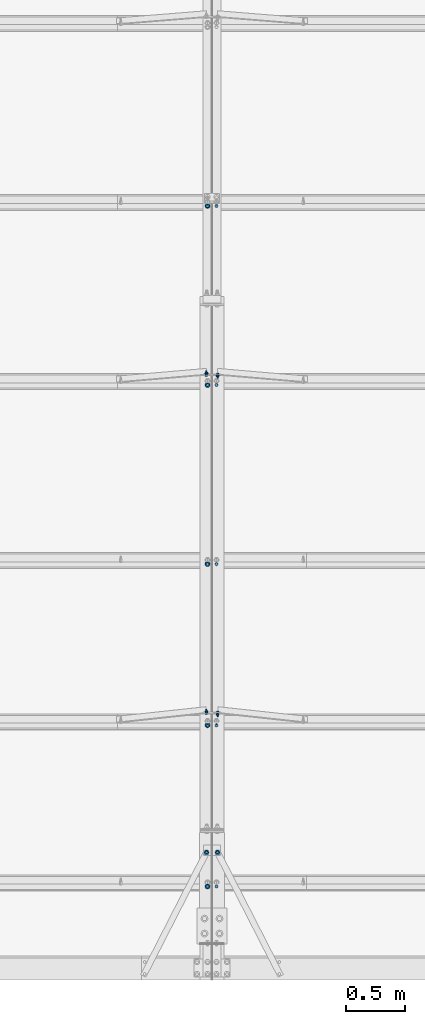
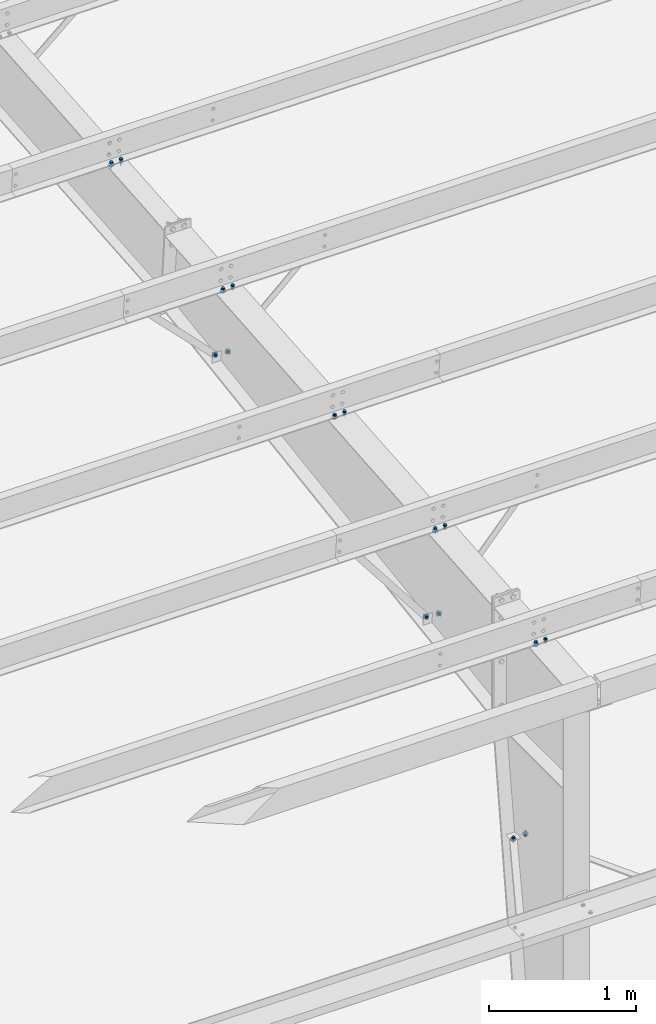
# One storey, part 134 of 185: 22 mechanical fasteners, 13 elements without a shape of their own.
"""IFC2X3 building model written with IfcOpenShell, lengths in millimetres."""

from ifc_helpers import new_model, si_unit, frame, origin_with_axes, origin_2d_with_axis, place, context, subcontext, project, spatial, polyline, circle, outline, extrude, source, transform, mapped, material, type_object, element, aggregate, save


model = new_model("IFC2X3")

# Units and contexts
model_context = context("Model", 3, precision=1e-05, world=origin_with_axes())
body_context = subcontext(model_context, "Body", "Model", "MODEL_VIEW")
ifc_project = project(units=[si_unit("LENGTHUNIT", "METRE", prefix="MILLI"), si_unit("AREAUNIT", "SQUARE_METRE"), si_unit("VOLUMEUNIT", "CUBIC_METRE"), si_unit("MASSUNIT", "GRAM", prefix="KILO"), si_unit("TIMEUNIT", "SECOND"), si_unit("PLANEANGLEUNIT", "RADIAN"), si_unit("SOLIDANGLEUNIT", "STERADIAN"), si_unit("THERMODYNAMICTEMPERATUREUNIT", "DEGREE_CELSIUS"), si_unit("LUMINOUSINTENSITYUNIT", "LUMEN")], contexts=[model_context])

# Site, building, storey
site_placement = place(None, origin_with_axes())
site = spatial("IfcSite", under=ifc_project, at=site_placement, Name="Undefined", CompositionType="ELEMENT")
building_placement = place(site_placement, origin_with_axes())
building = spatial("IfcBuilding", under=site, at=building_placement, Name="Undefined", CompositionType="ELEMENT")
storey_placement = place(building_placement, origin_with_axes())
storey = spatial("IfcBuildingStorey", under=building, at=storey_placement, Name="Undefined", CompositionType="ELEMENT", Elevation=0.0)

# Assembly, mechanical fastener
assembly_1_placement = place(storey_placement, origin_with_axes())
assembly_1 = element("IfcElementAssembly", 1, at=assembly_1_placement, inside=storey, Name="Steel Assembly", AssemblyPlace="NOTDEFINED", PredefinedType="RIGID_FRAME")
ifc_material_1 = material(Name="Undefined")
discrete_accessory_type = type_object("IfcDiscreteAccessoryType", Name="Bolt assembly")
shared_shape_1 = source(origin_with_axes(), body_context, "Body", "SweptSolid", [
    extrude(circle(Radius=7.14374971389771, at=origin_2d_with_axis()), frame((0.0, -1.59000001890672, 0.0), z_axis=(0.0, 1.0, 0.0), x_axis=(1.0, 0.0, 0.0)), (0.0, 0.0, 1.0), 1.7),
    extrude(outline(polyline([(10.9985221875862, 0.0), (5.4992610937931, 9.52499961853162), (-5.4992610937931, 9.52499961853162), (-10.9985221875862, 0.0), (-5.4992610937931, -9.52499961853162), (5.4992610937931, -9.52499961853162), (10.9985221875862, 0.0)])), frame((0.0, -15.0837496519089, 0.0), z_axis=(0.0, 1.0, 0.0), x_axis=(1.0, 0.0, 0.0)), (0.0, 0.0, 1.0), 9.5),
    extrude(circle(Radius=6.34999990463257, at=origin_2d_with_axis()), frame((0.0, -5.5587500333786, 0.0), z_axis=(0.0, 1.0, 0.0), x_axis=(1.0, 0.0, 0.0)), (0.0, 0.0, 1.0), 38.1),
    extrude(circle(Radius=13.4937496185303, at=origin_2d_with_axis()), frame((0.0, -5.5587500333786, 0.0), z_axis=(0.0, 1.0, 0.0), x_axis=(1.0, 0.0, 0.0)), (0.0, 0.0, 1.0), 4.0),
    extrude(circle(Radius=22.2250003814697, at=origin_2d_with_axis()), frame((0.0, 0.0, 0.0), z_axis=(0.0, 1.0, 0.0), x_axis=(1.0, 0.0, 0.0)), (0.0, 0.0, 1.0), 7.9),
    extrude(outline(polyline([(12.8316099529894, 0.0), (6.4158049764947, 11.1125001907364), (-6.4158049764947, 11.1125001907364), (-12.8316099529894, 0.0), (-6.4158049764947, -11.1125001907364), (6.4158049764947, -11.1125001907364), (12.8316099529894, 0.0)])), frame((0.0, 7.93750000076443, 0.0), z_axis=(0.0, 1.0, 0.0), x_axis=(1.0, 0.0, 0.0)), (0.0, 0.0, 1.0), 12.3),
])
mechanical_fastener_1_placement = place(assembly_1_placement, frame((22526.2866216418, 1081.76889073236, 4165.1649751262), z_axis=(-0.890301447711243, -0.455371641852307, 0.0), x_axis=(0.455371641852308, -0.890301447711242, 0.0)))
mechanical_fastener_1 = element("IfcMechanicalFastener", 2, at=mechanical_fastener_1_placement, type_object=discrete_accessory_type, material=ifc_material_1, Name="Bolt assembly", NominalDiameter=12.6999998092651, NominalLength=38.0999984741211, context=body_context, shape_type="MappedRepresentation", body=[
    mapped(shared_shape_1, transform((0.0, 0.0, 0.0))),
])
aggregate(assembly_1, [mechanical_fastener_1])

assembly_2_placement = place(storey_placement, origin_with_axes())
assembly_2 = element("IfcElementAssembly", 3, at=assembly_2_placement, inside=storey, Name="Steel Assembly", AssemblyPlace="NOTDEFINED", PredefinedType="RIGID_FRAME")
mechanical_fastener_2_placement = place(assembly_2_placement, frame((22526.5257244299, 5133.84450725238, 5717.36204916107), z_axis=(0.719276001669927, 0.0576937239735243, -0.692324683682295), x_axis=(0.69472443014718, -0.0597326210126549, 0.716791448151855)))
mechanical_fastener_2 = element("IfcMechanicalFastener", 4, at=mechanical_fastener_2_placement, type_object=discrete_accessory_type, material=ifc_material_1, Name="Bolt assembly", NominalDiameter=12.6999998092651, NominalLength=38.0999984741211, context=body_context, shape_type="MappedRepresentation", body=[
    mapped(shared_shape_1, transform((0.0, 0.0, 0.0))),
])
aggregate(assembly_2, [mechanical_fastener_2])

assembly_3_placement = place(storey_placement, origin_with_axes())
assembly_3 = element("IfcElementAssembly", 5, at=assembly_3_placement, inside=storey, Name="Steel Assembly", AssemblyPlace="NOTDEFINED", PredefinedType="RIGID_FRAME")
mechanical_fastener_3_placement = place(assembly_3_placement, frame((22526.4401058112, 2264.36236561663, 5283.50648644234), z_axis=(0.793088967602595, 0.0505834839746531, -0.60700181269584), x_axis=(0.609105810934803, -0.0658624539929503, 0.790349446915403)))
mechanical_fastener_3 = element("IfcMechanicalFastener", 6, at=mechanical_fastener_3_placement, type_object=discrete_accessory_type, material=ifc_material_1, Name="Bolt assembly", NominalDiameter=12.6999998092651, NominalLength=38.0999984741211, context=body_context, shape_type="MappedRepresentation", body=[
    mapped(shared_shape_1, transform((0.0, 0.0, 0.0))),
])
aggregate(assembly_3, [mechanical_fastener_3])

assembly_4_placement = place(storey_placement, origin_with_axes())
assembly_4 = element("IfcElementAssembly", 7, at=assembly_4_placement, inside=storey, Name="Steel Assembly", AssemblyPlace="NOTDEFINED", PredefinedType="RIGID_FRAME")
shared_shape_2 = source(origin_with_axes(), body_context, "Body", "SweptSolid", [
    extrude(circle(Radius=7.14374971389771, at=origin_2d_with_axis()), frame((0.0, 0.0, 0.0), z_axis=(0.0, 1.0, 0.0), x_axis=(1.0, 0.0, 0.0)), (0.0, 0.0, 1.0), 1.7),
    extrude(outline(polyline([(10.9985221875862, 0.0), (5.4992610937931, 9.52499961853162), (-5.4992610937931, 9.52499961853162), (-10.9985221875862, 0.0), (-5.4992610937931, -9.52499961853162), (5.4992610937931, -9.52499961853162), (10.9985221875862, 0.0)])), frame((0.0, -13.4937496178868, 0.0), z_axis=(0.0, 1.0, 0.0), x_axis=(1.0, 0.0, 0.0)), (0.0, 0.0, 1.0), 9.5),
    extrude(circle(Radius=6.34999990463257, at=origin_2d_with_axis()), frame((0.0, -3.96874999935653, 0.0), z_axis=(0.0, 1.0, 0.0), x_axis=(1.0, 0.0, 0.0)), (0.0, 0.0, 1.0), 38.1),
    extrude(circle(Radius=13.4937496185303, at=origin_2d_with_axis()), frame((0.0, -3.96874999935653, 0.0), z_axis=(0.0, 1.0, 0.0), x_axis=(1.0, 0.0, 0.0)), (0.0, 0.0, 1.0), 4.0),
    extrude(circle(Radius=22.2250003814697, at=origin_2d_with_axis()), frame((0.0, 1.5900000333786, 0.0), z_axis=(0.0, 1.0, 0.0), x_axis=(1.0, 0.0, 0.0)), (0.0, 0.0, 1.0), 7.9),
    extrude(outline(polyline([(12.8316099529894, 0.0), (6.4158049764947, 11.1125001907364), (-6.4158049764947, 11.1125001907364), (-12.8316099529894, 0.0), (-6.4158049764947, -11.1125001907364), (6.4158049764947, -11.1125001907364), (12.8316099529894, 0.0)])), frame((0.0, 9.5275000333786, 0.0), z_axis=(0.0, 1.0, 0.0), x_axis=(1.0, 0.0, 0.0)), (0.0, 0.0, 1.0), 12.3),
])
mechanical_fastener_4_placement = place(assembly_4_placement, frame((22431.7133783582, 1081.76889073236, 4165.1649751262), z_axis=(0.890301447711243, -0.455371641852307, 0.0), x_axis=(-0.455371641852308, -0.890301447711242, 0.0)))
mechanical_fastener_4 = element("IfcMechanicalFastener", 8, at=mechanical_fastener_4_placement, type_object=discrete_accessory_type, material=ifc_material_1, Name="Bolt assembly", NominalDiameter=12.6999998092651, NominalLength=38.0999984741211, context=body_context, shape_type="MappedRepresentation", body=[
    mapped(shared_shape_2, transform((0.0, 0.0, 0.0))),
])
aggregate(assembly_4, [mechanical_fastener_4])

assembly_5_placement = place(storey_placement, origin_with_axes())
assembly_5 = element("IfcElementAssembly", 9, at=assembly_5_placement, inside=storey, Name="Steel Assembly", AssemblyPlace="NOTDEFINED", PredefinedType="RIGID_FRAME")
mechanical_fastener_5_placement = place(assembly_5_placement, frame((22431.4742755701, 5133.84450725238, 5717.36204916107), z_axis=(-0.719276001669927, 0.0576937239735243, -0.692324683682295), x_axis=(-0.69472443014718, -0.0597326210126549, 0.716791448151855)))
mechanical_fastener_5 = element("IfcMechanicalFastener", 10, at=mechanical_fastener_5_placement, type_object=discrete_accessory_type, material=ifc_material_1, Name="Bolt assembly", NominalDiameter=12.6999998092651, NominalLength=38.0999984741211, context=body_context, shape_type="MappedRepresentation", body=[
    mapped(shared_shape_2, transform((0.0, 0.0, 0.0))),
])
aggregate(assembly_5, [mechanical_fastener_5])

assembly_6_placement = place(storey_placement, origin_with_axes())
assembly_6 = element("IfcElementAssembly", 11, at=assembly_6_placement, inside=storey, Name="Steel Assembly", AssemblyPlace="NOTDEFINED", PredefinedType="RIGID_FRAME")
mechanical_fastener_6_placement = place(assembly_6_placement, frame((22431.5598941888, 2264.36236561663, 5283.50648644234), z_axis=(-0.793088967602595, 0.0505834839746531, -0.60700181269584), x_axis=(-0.609105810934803, -0.0658624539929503, 0.790349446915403)))
mechanical_fastener_6 = element("IfcMechanicalFastener", 12, at=mechanical_fastener_6_placement, type_object=discrete_accessory_type, material=ifc_material_1, Name="Bolt assembly", NominalDiameter=12.6999998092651, NominalLength=38.0999984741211, context=body_context, shape_type="MappedRepresentation", body=[
    mapped(shared_shape_2, transform((0.0, 0.0, 0.0))),
])
aggregate(assembly_6, [mechanical_fastener_6])

assembly_7_placement = place(storey_placement, origin_with_axes())
assembly_7 = element("IfcElementAssembly", 13, at=assembly_7_placement, inside=storey, Name="Steel Assembly", AssemblyPlace="NOTDEFINED", PredefinedType="RIGID_FRAME")
ifc_material_2 = material(Name="7990")
shared_shape_3 = source(origin_with_axes(), body_context, "Body", "SweptSolid", [
    extrude(circle(Radius=7.14374971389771, at=origin_2d_with_axis()), frame((0.0, -3.41600000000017, 0.0), z_axis=(0.0, 1.0, 0.0), x_axis=(1.0, 0.0, 0.0)), (0.0, 0.0, 1.0), 3.5),
    extrude(circle(Radius=11.4299998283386, at=origin_2d_with_axis()), frame((0.0, 0.0, 0.0), z_axis=(0.0, 1.0, 0.0), x_axis=(1.0, 0.0, 0.0)), (0.0, 0.0, 1.0), 4.2),
    extrude(outline(polyline([(12.171698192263, 0.0), (6.08584909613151, 10.5409998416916), (-6.08584909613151, 10.5409998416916), (-12.171698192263, 0.0), (-6.08584909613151, -10.5409998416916), (6.08584909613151, -10.5409998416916), (12.171698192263, 0.0)])), frame((0.0, 4.1909999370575, 0.0), z_axis=(0.0, 1.0, 0.0), x_axis=(1.0, 0.0, 0.0)), (0.0, 0.0, 1.0), 8.4),
])
mechanical_fastener_7_placement = place(assembly_7_placement, frame((22432.16875, 1082.65919218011, 4165.1649751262), z_axis=(0.921635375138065, 0.388057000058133, 0.0), x_axis=(-0.388057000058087, 0.921635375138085, 0.0)))
mechanical_fastener_7 = element("IfcMechanicalFastener", 14, at=mechanical_fastener_7_placement, type_object=discrete_accessory_type, material=ifc_material_2, Name="Bolt assembly", NominalDiameter=12.6999998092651, NominalLength=38.0999984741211, context=body_context, shape_type="MappedRepresentation", body=[
    mapped(shared_shape_3, transform((0.0, 0.0, 0.0))),
])

# Assembly, mechanical fasteners
assembly_8_placement = place(storey_placement, origin_with_axes())
assembly_8 = element("IfcElementAssembly", 15, at=assembly_8_placement, inside=storey, Name="Steel Assembly", AssemblyPlace="NOTDEFINED", PredefinedType="RIGID_FRAME")
mechanical_fastener_8_placement = place(assembly_8_placement, frame((22432.169, 5133.90423987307, 5716.64525771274), z_axis=(0.921635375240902, 0.0322263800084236, -0.386716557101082), x_axis=(-0.388056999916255, 0.0765376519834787, -0.9184518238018)))
mechanical_fastener_8 = element("IfcMechanicalFastener", 16, at=mechanical_fastener_8_placement, type_object=discrete_accessory_type, material=ifc_material_2, Name="Bolt assembly", NominalDiameter=12.6999998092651, NominalLength=38.0999984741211, context=body_context, shape_type="MappedRepresentation", body=[
    mapped(shared_shape_3, transform((0.0, 0.0, 0.0))),
])
mechanical_fastener_9_placement = place(assembly_8_placement, frame((22432.169, 2264.42822807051, 5282.71613699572), z_axis=(0.921635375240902, 0.0322263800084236, -0.386716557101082), x_axis=(-0.388056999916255, 0.0765376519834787, -0.9184518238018)))
mechanical_fastener_9 = element("IfcMechanicalFastener", 17, at=mechanical_fastener_9_placement, type_object=discrete_accessory_type, material=ifc_material_2, Name="Bolt assembly", NominalDiameter=12.6999998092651, NominalLength=38.0999984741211, context=body_context, shape_type="MappedRepresentation", body=[
    mapped(shared_shape_3, transform((0.0, 0.0, 0.0))),
])

# Mechanical fastener
shared_shape_4 = source(origin_with_axes(), body_context, "Body", "SweptSolid", [
    extrude(circle(Radius=7.14374971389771, at=origin_2d_with_axis()), frame((0.0, 0.0, 0.0), z_axis=(0.0, 1.0, 0.0), x_axis=(1.0, 0.0, 0.0)), (0.0, 0.0, 1.0), 3.5),
    extrude(circle(Radius=11.4299998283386, at=origin_2d_with_axis()), frame((0.0, 3.41600000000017, 0.0), z_axis=(0.0, 1.0, 0.0), x_axis=(1.0, 0.0, 0.0)), (0.0, 0.0, 1.0), 4.2),
    extrude(outline(polyline([(12.171698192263, 0.0), (6.08584909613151, 10.5409998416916), (-6.08584909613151, 10.5409998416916), (-12.171698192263, 0.0), (-6.08584909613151, -10.5409998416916), (6.08584909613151, -10.5409998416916), (12.171698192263, 0.0)])), frame((0.0, 7.60699993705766, 0.0), z_axis=(0.0, 1.0, 0.0), x_axis=(1.0, 0.0, 0.0)), (0.0, 0.0, 1.0), 8.4),
])
mechanical_fastener_10_placement = place(assembly_7_placement, frame((22525.83125, 1082.65919218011, 4165.1649751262), z_axis=(-0.921635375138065, 0.388057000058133, 0.0), x_axis=(0.388057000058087, 0.921635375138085, 0.0)))
mechanical_fastener_10 = element("IfcMechanicalFastener", 18, at=mechanical_fastener_10_placement, type_object=discrete_accessory_type, material=ifc_material_2, Name="Bolt assembly", NominalDiameter=12.6999998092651, NominalLength=38.0999984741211, context=body_context, shape_type="MappedRepresentation", body=[
    mapped(shared_shape_4, transform((0.0, 0.0, 0.0))),
])

aggregate(assembly_7, [mechanical_fastener_7, mechanical_fastener_10])

mechanical_fastener_11_placement = place(assembly_8_placement, frame((22525.831, 5133.90423987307, 5716.64525771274), z_axis=(-0.921635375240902, 0.0322263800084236, -0.386716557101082), x_axis=(0.388056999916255, 0.0765376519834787, -0.9184518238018)))
mechanical_fastener_11 = element("IfcMechanicalFastener", 19, at=mechanical_fastener_11_placement, type_object=discrete_accessory_type, material=ifc_material_2, Name="Bolt assembly", NominalDiameter=12.6999998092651, NominalLength=38.0999984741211, context=body_context, shape_type="MappedRepresentation", body=[
    mapped(shared_shape_4, transform((0.0, 0.0, 0.0))),
])

mechanical_fastener_12_placement = place(assembly_8_placement, frame((22525.831, 2264.42822807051, 5282.71613699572), z_axis=(-0.921635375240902, 0.0322263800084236, -0.386716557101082), x_axis=(0.388056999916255, 0.0765376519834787, -0.9184518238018)))
mechanical_fastener_12 = element("IfcMechanicalFastener", 20, at=mechanical_fastener_12_placement, type_object=discrete_accessory_type, material=ifc_material_2, Name="Bolt assembly", NominalDiameter=12.6999998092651, NominalLength=38.0999984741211, context=body_context, shape_type="MappedRepresentation", body=[
    mapped(shared_shape_4, transform((0.0, 0.0, 0.0))),
])

aggregate(assembly_8, [mechanical_fastener_11, mechanical_fastener_8, mechanical_fastener_12, mechanical_fastener_9])

# Assembly, mechanical fasteners
assembly_9_placement = place(storey_placement, origin_with_axes())
assembly_9 = element("IfcElementAssembly", 21, at=assembly_9_placement, inside=storey, Name="Steel Assembly", AssemblyPlace="NOTDEFINED", PredefinedType="RIGID_FRAME")
shared_shape_5 = source(origin_with_axes(), body_context, "Body", "SweptSolid", [
    extrude(circle(Radius=7.14374971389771, at=origin_2d_with_axis()), frame((0.0, -0.0238014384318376, 0.0), z_axis=(0.0, 1.0, 0.0), x_axis=(1.0, 0.0, 0.0)), (0.0, 0.0, 1.0), 8.0),
    extrude(circle(Radius=7.14374971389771, at=origin_2d_with_axis()), frame((0.0, -3.08000006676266, 0.0), z_axis=(0.0, 1.0, 0.0), x_axis=(1.0, 0.0, 0.0)), (0.0, 0.0, 1.0), 3.2),
    extrude(circle(Radius=7.14374971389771, at=origin_2d_with_axis()), frame((0.0, -3.08000006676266, 0.0), z_axis=(0.0, 1.0, 0.0), x_axis=(1.0, 0.0, 0.0)), (0.0, 0.0, 1.0), 3.2),
    extrude(outline(polyline([(12.8316099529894, 0.0), (6.4158049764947, 11.1125001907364), (-6.4158049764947, 11.1125001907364), (-12.8316099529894, 0.0), (-6.4158049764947, -11.1125001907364), (6.4158049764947, -11.1125001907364), (12.8316099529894, 0.0)])), frame((0.0, -15.08625183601, 0.0), z_axis=(0.0, 1.0, 0.0), x_axis=(1.0, 0.0, 0.0)), (0.0, 0.0, 1.0), 7.9),
    extrude(circle(Radius=6.34999990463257, at=origin_2d_with_axis()), frame((0.0, -7.14875006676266, 0.0), z_axis=(0.0, 1.0, 0.0), x_axis=(1.0, 0.0, 0.0)), (0.0, 0.0, 1.0), 50.8),
    extrude(circle(Radius=13.4937496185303, at=origin_2d_with_axis()), frame((0.0, -7.14875006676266, 0.0), z_axis=(0.0, 1.0, 0.0), x_axis=(1.0, 0.0, 0.0)), (0.0, 0.0, 1.0), 4.0),
    extrude(circle(Radius=22.2250003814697, at=origin_2d_with_axis()), frame((0.0, 7.95019856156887, 0.0), z_axis=(0.0, 1.0, 0.0), x_axis=(1.0, 0.0, 0.0)), (0.0, 0.0, 1.0), 7.9),
    extrude(outline(polyline([(12.8316099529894, 0.0), (6.4158049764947, 11.1125001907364), (-6.4158049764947, 11.1125001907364), (-12.8316099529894, 0.0), (-6.4158049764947, -11.1125001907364), (6.4158049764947, -11.1125001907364), (12.8316099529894, 0.0)])), frame((0.0, 15.8876985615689, 0.0), z_axis=(0.0, 1.0, 0.0), x_axis=(1.0, 0.0, 0.0)), (0.0, 0.0, 1.0), 12.3),
])
mechanical_fastener_13_placement = place(assembly_9_placement, frame((22440.9, 6564.74531362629, 6439.15777570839), z_axis=(1.0, 0.0, 0.0), x_axis=(0.0, -0.996545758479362, -0.0830454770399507)))
mechanical_fastener_13 = element("IfcMechanicalFastener", 22, at=mechanical_fastener_13_placement, type_object=discrete_accessory_type, material=ifc_material_1, Name="Bolt assembly", NominalDiameter=12.6999998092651, NominalLength=50.7999992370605, context=body_context, shape_type="MappedRepresentation", body=[
    mapped(shared_shape_5, transform((0.0, 0.0, 0.0))),
])
shared_shape_6 = source(origin_with_axes(), body_context, "Body", "SweptSolid", [
    extrude(circle(Radius=7.14374971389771, at=origin_2d_with_axis()), frame((0.0, -0.0238014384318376, 0.0), z_axis=(0.0, 1.0, 0.0), x_axis=(1.0, 0.0, 0.0)), (0.0, 0.0, 1.0), 8.0),
    extrude(circle(Radius=7.14374971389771, at=origin_2d_with_axis()), frame((0.0, -3.08000006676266, 0.0), z_axis=(0.0, 1.0, 0.0), x_axis=(1.0, 0.0, 0.0)), (0.0, 0.0, 1.0), 3.2),
    extrude(circle(Radius=7.14374971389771, at=origin_2d_with_axis()), frame((0.0, -3.08000006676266, 0.0), z_axis=(0.0, 1.0, 0.0), x_axis=(1.0, 0.0, 0.0)), (0.0, 0.0, 1.0), 3.2),
    extrude(outline(polyline([(12.8316099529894, 0.0), (6.4158049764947, 11.1125001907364), (-6.4158049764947, 11.1125001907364), (-12.8316099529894, 0.0), (-6.4158049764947, -11.1125001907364), (6.4158049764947, -11.1125001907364), (12.8316099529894, 0.0)])), frame((0.0, -15.08625183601, 0.0), z_axis=(0.0, 1.0, 0.0), x_axis=(1.0, 0.0, 0.0)), (0.0, 0.0, 1.0), 7.9),
    extrude(circle(Radius=6.34999990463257, at=origin_2d_with_axis()), frame((0.0, -7.14875006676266, 0.0), z_axis=(0.0, 1.0, 0.0), x_axis=(1.0, 0.0, 0.0)), (0.0, 0.0, 1.0), 50.8),
    extrude(circle(Radius=13.4937496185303, at=origin_2d_with_axis()), frame((0.0, -7.14875006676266, 0.0), z_axis=(0.0, 1.0, 0.0), x_axis=(1.0, 0.0, 0.0)), (0.0, 0.0, 1.0), 4.0),
    extrude(outline(polyline([(12.8316099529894, 0.0), (6.4158049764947, 11.1125001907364), (-6.4158049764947, 11.1125001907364), (-12.8316099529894, 0.0), (-6.4158049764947, -11.1125001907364), (6.4158049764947, -11.1125001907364), (12.8316099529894, 0.0)])), frame((0.0, 7.95019856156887, 0.0), z_axis=(0.0, 1.0, 0.0), x_axis=(1.0, 0.0, 0.0)), (0.0, 0.0, 1.0), 12.3),
])
mechanical_fastener_14_placement = place(assembly_9_placement, frame((22517.1, 6564.74531362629, 6439.15777570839), z_axis=(1.0, 0.0, 0.0), x_axis=(0.0, -0.996545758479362, -0.0830454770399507)))
mechanical_fastener_14 = element("IfcMechanicalFastener", 23, at=mechanical_fastener_14_placement, type_object=discrete_accessory_type, material=ifc_material_1, Name="Bolt assembly", NominalDiameter=12.6999998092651, NominalLength=50.7999992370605, context=body_context, shape_type="MappedRepresentation", body=[
    mapped(shared_shape_6, transform((0.0, 0.0, 0.0))),
])
aggregate(assembly_9, [mechanical_fastener_13, mechanical_fastener_14])

assembly_10_placement = place(storey_placement, origin_with_axes())
assembly_10 = element("IfcElementAssembly", 24, at=assembly_10_placement, inside=storey, Name="Steel Assembly", AssemblyPlace="NOTDEFINED", PredefinedType="RIGID_FRAME")
shared_shape_7 = source(origin_with_axes(), body_context, "Body", "SweptSolid", [
    extrude(circle(Radius=7.14374971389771, at=origin_2d_with_axis()), frame((0.0, -0.1, 0.0), z_axis=(0.0, 1.0, 0.0), x_axis=(1.0, 0.0, 0.0)), (0.0, 0.0, 1.0), 8.1),
    extrude(circle(Radius=7.14374971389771, at=origin_2d_with_axis()), frame((0.0, -3.08000006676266, 0.0), z_axis=(0.0, 1.0, 0.0), x_axis=(1.0, 0.0, 0.0)), (0.0, 0.0, 1.0), 3.2),
    extrude(circle(Radius=7.14374971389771, at=origin_2d_with_axis()), frame((0.0, -3.08000006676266, 0.0), z_axis=(0.0, 1.0, 0.0), x_axis=(1.0, 0.0, 0.0)), (0.0, 0.0, 1.0), 3.2),
    extrude(outline(polyline([(10.9985221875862, 0.0), (5.4992610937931, 9.52499961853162), (-5.4992610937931, 9.52499961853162), (-10.9985221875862, 0.0), (-5.4992610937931, -9.52499961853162), (5.4992610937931, -9.52499961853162), (10.9985221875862, 0.0)])), frame((0.0, -16.6737496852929, 0.0), z_axis=(0.0, 1.0, 0.0), x_axis=(1.0, 0.0, 0.0)), (0.0, 0.0, 1.0), 9.5),
    extrude(circle(Radius=6.34999990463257, at=origin_2d_with_axis()), frame((0.0, -7.14875006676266, 0.0), z_axis=(0.0, 1.0, 0.0), x_axis=(1.0, 0.0, 0.0)), (0.0, 0.0, 1.0), 38.1),
    extrude(circle(Radius=13.4937496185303, at=origin_2d_with_axis()), frame((0.0, -7.14875006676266, 0.0), z_axis=(0.0, 1.0, 0.0), x_axis=(1.0, 0.0, 0.0)), (0.0, 0.0, 1.0), 4.0),
    extrude(circle(Radius=22.2250003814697, at=origin_2d_with_axis()), frame((0.0, 7.95019856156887, 0.0), z_axis=(0.0, 1.0, 0.0), x_axis=(1.0, 0.0, 0.0)), (0.0, 0.0, 1.0), 7.9),
    extrude(outline(polyline([(12.8316099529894, 0.0), (6.4158049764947, 11.1125001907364), (-6.4158049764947, 11.1125001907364), (-12.8316099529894, 0.0), (-6.4158049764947, -11.1125001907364), (6.4158049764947, -11.1125001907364), (12.8316099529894, 0.0)])), frame((0.0, 15.8876985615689, 0.0), z_axis=(0.0, 1.0, 0.0), x_axis=(1.0, 0.0, 0.0)), (0.0, 0.0, 1.0), 12.3),
])
mechanical_fastener_15_placement = place(assembly_10_placement, frame((22440.9, 793.549517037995, 5958.22479168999), z_axis=(1.0, 0.0, 0.0), x_axis=(0.0, -0.996545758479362, -0.0830454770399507)))
mechanical_fastener_15 = element("IfcMechanicalFastener", 25, at=mechanical_fastener_15_placement, type_object=discrete_accessory_type, material=ifc_material_1, Name="Bolt assembly", NominalDiameter=12.6999998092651, NominalLength=38.0999984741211, context=body_context, shape_type="MappedRepresentation", body=[
    mapped(shared_shape_7, transform((0.0, 0.0, 0.0))),
])
shared_shape_8 = source(origin_with_axes(), body_context, "Body", "SweptSolid", [
    extrude(circle(Radius=7.14374971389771, at=origin_2d_with_axis()), frame((0.0, -0.1, 0.0), z_axis=(0.0, 1.0, 0.0), x_axis=(1.0, 0.0, 0.0)), (0.0, 0.0, 1.0), 8.1),
    extrude(circle(Radius=7.14374971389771, at=origin_2d_with_axis()), frame((0.0, -3.08000006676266, 0.0), z_axis=(0.0, 1.0, 0.0), x_axis=(1.0, 0.0, 0.0)), (0.0, 0.0, 1.0), 3.2),
    extrude(circle(Radius=7.14374971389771, at=origin_2d_with_axis()), frame((0.0, -3.08000006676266, 0.0), z_axis=(0.0, 1.0, 0.0), x_axis=(1.0, 0.0, 0.0)), (0.0, 0.0, 1.0), 3.2),
    extrude(outline(polyline([(10.9985221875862, 0.0), (5.4992610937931, 9.52499961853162), (-5.4992610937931, 9.52499961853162), (-10.9985221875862, 0.0), (-5.4992610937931, -9.52499961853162), (5.4992610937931, -9.52499961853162), (10.9985221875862, 0.0)])), frame((0.0, -16.6737496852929, 0.0), z_axis=(0.0, 1.0, 0.0), x_axis=(1.0, 0.0, 0.0)), (0.0, 0.0, 1.0), 9.5),
    extrude(circle(Radius=6.34999990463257, at=origin_2d_with_axis()), frame((0.0, -7.14875006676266, 0.0), z_axis=(0.0, 1.0, 0.0), x_axis=(1.0, 0.0, 0.0)), (0.0, 0.0, 1.0), 38.1),
    extrude(circle(Radius=13.4937496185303, at=origin_2d_with_axis()), frame((0.0, -7.14875006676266, 0.0), z_axis=(0.0, 1.0, 0.0), x_axis=(1.0, 0.0, 0.0)), (0.0, 0.0, 1.0), 4.0),
    extrude(outline(polyline([(12.8316099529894, 0.0), (6.4158049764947, 11.1125001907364), (-6.4158049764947, 11.1125001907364), (-12.8316099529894, 0.0), (-6.4158049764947, -11.1125001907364), (6.4158049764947, -11.1125001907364), (12.8316099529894, 0.0)])), frame((0.0, 7.95019856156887, 0.0), z_axis=(0.0, 1.0, 0.0), x_axis=(1.0, 0.0, 0.0)), (0.0, 0.0, 1.0), 12.3),
])
mechanical_fastener_16_placement = place(assembly_10_placement, frame((22517.1, 793.549517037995, 5958.22479168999), z_axis=(1.0, 0.0, 0.0), x_axis=(0.0, -0.996545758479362, -0.0830454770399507)))
mechanical_fastener_16 = element("IfcMechanicalFastener", 26, at=mechanical_fastener_16_placement, type_object=discrete_accessory_type, material=ifc_material_1, Name="Bolt assembly", NominalDiameter=12.6999998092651, NominalLength=38.0999984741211, context=body_context, shape_type="MappedRepresentation", body=[
    mapped(shared_shape_8, transform((0.0, 0.0, 0.0))),
])
aggregate(assembly_10, [mechanical_fastener_15, mechanical_fastener_16])

# Assembly, mechanical fastener
assembly_11_placement = place(storey_placement, origin_with_axes())
assembly_11 = element("IfcElementAssembly", 27, at=assembly_11_placement, inside=storey, Name="Steel Assembly", AssemblyPlace="NOTDEFINED", PredefinedType="RIGID_FRAME")
shared_shape_9 = source(origin_with_axes(), body_context, "Body", "SweptSolid", [
    extrude(circle(Radius=7.14374971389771, at=origin_2d_with_axis()), frame((0.0, -0.0897199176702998, 0.0), z_axis=(0.0, 1.0, 0.0), x_axis=(1.0, 0.0, 0.0)), (0.0, 0.0, 1.0), 8.0),
    extrude(circle(Radius=7.14374971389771, at=origin_2d_with_axis()), frame((0.0, -3.08000006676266, 0.0), z_axis=(0.0, 1.0, 0.0), x_axis=(1.0, 0.0, 0.0)), (0.0, 0.0, 1.0), 3.2),
    extrude(circle(Radius=7.14374971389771, at=origin_2d_with_axis()), frame((0.0, -3.08000006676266, 0.0), z_axis=(0.0, 1.0, 0.0), x_axis=(1.0, 0.0, 0.0)), (0.0, 0.0, 1.0), 3.2),
    extrude(outline(polyline([(10.9985221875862, 0.0), (5.4992610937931, 9.52499961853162), (-5.4992610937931, 9.52499961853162), (-10.9985221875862, 0.0), (-5.4992610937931, -9.52499961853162), (5.4992610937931, -9.52499961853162), (10.9985221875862, 0.0)])), frame((0.0, -16.6737496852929, 0.0), z_axis=(0.0, 1.0, 0.0), x_axis=(1.0, 0.0, 0.0)), (0.0, 0.0, 1.0), 9.5),
    extrude(circle(Radius=6.34999990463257, at=origin_2d_with_axis()), frame((0.0, -7.14875006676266, 0.0), z_axis=(0.0, 1.0, 0.0), x_axis=(1.0, 0.0, 0.0)), (0.0, 0.0, 1.0), 38.1),
    extrude(circle(Radius=13.4937496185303, at=origin_2d_with_axis()), frame((0.0, -7.14875006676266, 0.0), z_axis=(0.0, 1.0, 0.0), x_axis=(1.0, 0.0, 0.0)), (0.0, 0.0, 1.0), 4.0),
    extrude(circle(Radius=22.2250003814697, at=origin_2d_with_axis()), frame((0.0, 7.88428008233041, 0.0), z_axis=(0.0, 1.0, 0.0), x_axis=(1.0, 0.0, 0.0)), (0.0, 0.0, 1.0), 7.9),
    extrude(outline(polyline([(12.8316099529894, 0.0), (6.4158049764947, 11.1125001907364), (-6.4158049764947, 11.1125001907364), (-12.8316099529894, 0.0), (-6.4158049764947, -11.1125001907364), (6.4158049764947, -11.1125001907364), (12.8316099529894, 0.0)])), frame((0.0, 15.8217800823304, 0.0), z_axis=(0.0, 1.0, 0.0), x_axis=(1.0, 0.0, 0.0)), (0.0, 0.0, 1.0), 12.3),
])
mechanical_fastener_17_placement = place(assembly_11_placement, frame((22440.9, 2160.41167902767, 6072.12997208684), z_axis=(1.0, 0.0, 0.0), x_axis=(0.0, -0.996545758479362, -0.0830454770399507)))
mechanical_fastener_17 = element("IfcMechanicalFastener", 28, at=mechanical_fastener_17_placement, type_object=discrete_accessory_type, material=ifc_material_1, Name="Bolt assembly", NominalDiameter=12.6999998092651, NominalLength=38.0999984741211, context=body_context, shape_type="MappedRepresentation", body=[
    mapped(shared_shape_9, transform((0.0, 0.0, 0.0))),
])

assembly_12_placement = place(storey_placement, origin_with_axes())
assembly_12 = element("IfcElementAssembly", 29, at=assembly_12_placement, inside=storey, Name="Steel Assembly", AssemblyPlace="NOTDEFINED", PredefinedType="RIGID_FRAME")
mechanical_fastener_18_placement = place(assembly_12_placement, frame((22440.9, 3527.27384101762, 6186.03515248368), z_axis=(1.0, 0.0, 0.0), x_axis=(0.0, -0.996545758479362, -0.0830454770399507)))
mechanical_fastener_18 = element("IfcMechanicalFastener", 30, at=mechanical_fastener_18_placement, type_object=discrete_accessory_type, material=ifc_material_1, Name="Bolt assembly", NominalDiameter=12.6999998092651, NominalLength=38.0999984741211, context=body_context, shape_type="MappedRepresentation", body=[
    mapped(shared_shape_9, transform((0.0, 0.0, 0.0))),
])

assembly_13_placement = place(storey_placement, origin_with_axes())
assembly_13 = element("IfcElementAssembly", 31, at=assembly_13_placement, inside=storey, Name="Steel Assembly", AssemblyPlace="NOTDEFINED", PredefinedType="RIGID_FRAME")
mechanical_fastener_19_placement = place(assembly_13_placement, frame((22440.9, 5046.00957656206, 6312.59646403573), z_axis=(1.0, 0.0, 0.0), x_axis=(0.0, -0.996545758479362, -0.0830454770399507)))
mechanical_fastener_19 = element("IfcMechanicalFastener", 32, at=mechanical_fastener_19_placement, type_object=discrete_accessory_type, material=ifc_material_1, Name="Bolt assembly", NominalDiameter=12.6999998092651, NominalLength=38.0999984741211, context=body_context, shape_type="MappedRepresentation", body=[
    mapped(shared_shape_9, transform((0.0, 0.0, 0.0))),
])

# Mechanical fastener
shared_shape_10 = source(origin_with_axes(), body_context, "Body", "SweptSolid", [
    extrude(circle(Radius=7.14374971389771, at=origin_2d_with_axis()), frame((0.0, -0.0897199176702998, 0.0), z_axis=(0.0, 1.0, 0.0), x_axis=(1.0, 0.0, 0.0)), (0.0, 0.0, 1.0), 8.0),
    extrude(circle(Radius=7.14374971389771, at=origin_2d_with_axis()), frame((0.0, -3.08000006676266, 0.0), z_axis=(0.0, 1.0, 0.0), x_axis=(1.0, 0.0, 0.0)), (0.0, 0.0, 1.0), 3.2),
    extrude(circle(Radius=7.14374971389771, at=origin_2d_with_axis()), frame((0.0, -3.08000006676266, 0.0), z_axis=(0.0, 1.0, 0.0), x_axis=(1.0, 0.0, 0.0)), (0.0, 0.0, 1.0), 3.2),
    extrude(outline(polyline([(10.9985221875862, 0.0), (5.4992610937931, 9.52499961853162), (-5.4992610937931, 9.52499961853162), (-10.9985221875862, 0.0), (-5.4992610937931, -9.52499961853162), (5.4992610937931, -9.52499961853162), (10.9985221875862, 0.0)])), frame((0.0, -16.6737496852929, 0.0), z_axis=(0.0, 1.0, 0.0), x_axis=(1.0, 0.0, 0.0)), (0.0, 0.0, 1.0), 9.5),
    extrude(circle(Radius=6.34999990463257, at=origin_2d_with_axis()), frame((0.0, -7.14875006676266, 0.0), z_axis=(0.0, 1.0, 0.0), x_axis=(1.0, 0.0, 0.0)), (0.0, 0.0, 1.0), 38.1),
    extrude(circle(Radius=13.4937496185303, at=origin_2d_with_axis()), frame((0.0, -7.14875006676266, 0.0), z_axis=(0.0, 1.0, 0.0), x_axis=(1.0, 0.0, 0.0)), (0.0, 0.0, 1.0), 4.0),
    extrude(outline(polyline([(12.8316099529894, 0.0), (6.4158049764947, 11.1125001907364), (-6.4158049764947, 11.1125001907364), (-12.8316099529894, 0.0), (-6.4158049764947, -11.1125001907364), (6.4158049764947, -11.1125001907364), (12.8316099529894, 0.0)])), frame((0.0, 7.88428008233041, 0.0), z_axis=(0.0, 1.0, 0.0), x_axis=(1.0, 0.0, 0.0)), (0.0, 0.0, 1.0), 12.3),
])
mechanical_fastener_20_placement = place(assembly_11_placement, frame((22517.1, 2160.41167902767, 6072.12997208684), z_axis=(1.0, 0.0, 0.0), x_axis=(0.0, -0.996545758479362, -0.0830454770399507)))
mechanical_fastener_20 = element("IfcMechanicalFastener", 33, at=mechanical_fastener_20_placement, type_object=discrete_accessory_type, material=ifc_material_1, Name="Bolt assembly", NominalDiameter=12.6999998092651, NominalLength=38.0999984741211, context=body_context, shape_type="MappedRepresentation", body=[
    mapped(shared_shape_10, transform((0.0, 0.0, 0.0))),
])

aggregate(assembly_11, [mechanical_fastener_17, mechanical_fastener_20])

mechanical_fastener_21_placement = place(assembly_12_placement, frame((22517.1, 3527.27384101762, 6186.03515248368), z_axis=(1.0, 0.0, 0.0), x_axis=(0.0, -0.996545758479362, -0.0830454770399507)))
mechanical_fastener_21 = element("IfcMechanicalFastener", 34, at=mechanical_fastener_21_placement, type_object=discrete_accessory_type, material=ifc_material_1, Name="Bolt assembly", NominalDiameter=12.6999998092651, NominalLength=38.0999984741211, context=body_context, shape_type="MappedRepresentation", body=[
    mapped(shared_shape_10, transform((0.0, 0.0, 0.0))),
])

aggregate(assembly_12, [mechanical_fastener_18, mechanical_fastener_21])

mechanical_fastener_22_placement = place(assembly_13_placement, frame((22517.1, 5046.00957656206, 6312.59646403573), z_axis=(1.0, 0.0, 0.0), x_axis=(0.0, -0.996545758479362, -0.0830454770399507)))
mechanical_fastener_22 = element("IfcMechanicalFastener", 35, at=mechanical_fastener_22_placement, type_object=discrete_accessory_type, material=ifc_material_1, Name="Bolt assembly", NominalDiameter=12.6999998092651, NominalLength=38.0999984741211, context=body_context, shape_type="MappedRepresentation", body=[
    mapped(shared_shape_10, transform((0.0, 0.0, 0.0))),
])

aggregate(assembly_13, [mechanical_fastener_19, mechanical_fastener_22])

save(model, "model.ifc")
